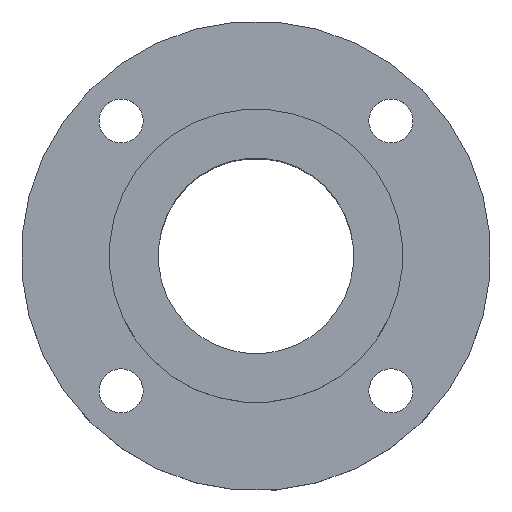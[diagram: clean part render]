
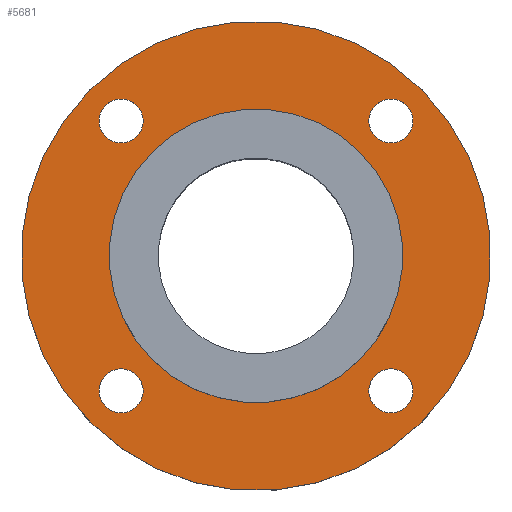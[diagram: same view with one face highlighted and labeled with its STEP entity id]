
A CAD part, top view. The second image highlights one B-rep face of the part: STEP entity #5681.
In plain terms, the highlighted planar face has unit normal (0, 0, 1).
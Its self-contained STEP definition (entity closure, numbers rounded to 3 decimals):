
#110=CIRCLE('',#6041,30.);
#114=CIRCLE('',#6049,48.);
#115=CIRCLE('',#6051,4.5);
#116=CIRCLE('',#6052,4.5);
#117=CIRCLE('',#6053,4.5);
#118=CIRCLE('',#6054,4.5);
#509=ORIENTED_EDGE('',*,*,#2135,.F.);
#510=ORIENTED_EDGE('',*,*,#2136,.F.);
#511=ORIENTED_EDGE('',*,*,#2137,.F.);
#512=ORIENTED_EDGE('',*,*,#2138,.F.);
#513=ORIENTED_EDGE('',*,*,#2130,.T.);
#514=ORIENTED_EDGE('',*,*,#2134,.T.);
#2130=EDGE_CURVE('',#2946,#2946,#110,.F.);
#2134=EDGE_CURVE('',#2950,#2950,#114,.T.);
#2135=EDGE_CURVE('',#2951,#2951,#115,.T.);
#2136=EDGE_CURVE('',#2952,#2952,#116,.T.);
#2137=EDGE_CURVE('',#2953,#2953,#117,.T.);
#2138=EDGE_CURVE('',#2954,#2954,#118,.T.);
#2946=VERTEX_POINT('',#8962);
#2950=VERTEX_POINT('',#8974);
#2951=VERTEX_POINT('',#8977);
#2952=VERTEX_POINT('',#8979);
#2953=VERTEX_POINT('',#8981);
#2954=VERTEX_POINT('',#8983);
#4645=EDGE_LOOP('',(#509));
#4646=EDGE_LOOP('',(#510));
#4647=EDGE_LOOP('',(#511));
#4648=EDGE_LOOP('',(#512));
#4649=EDGE_LOOP('',(#513));
#4650=EDGE_LOOP('',(#514));
#5059=FACE_BOUND('',#4645,.T.);
#5060=FACE_BOUND('',#4646,.T.);
#5061=FACE_BOUND('',#4647,.T.);
#5062=FACE_BOUND('',#4648,.T.);
#5063=FACE_BOUND('',#4649,.T.);
#5064=FACE_BOUND('',#4650,.T.);
#5416=PLANE('',#6050);
#5681=ADVANCED_FACE('',(#5059,#5060,#5061,#5062,#5063,#5064),#5416,.T.);
#6041=AXIS2_PLACEMENT_3D('',#8961,#6565,#6566);
#6049=AXIS2_PLACEMENT_3D('',#8973,#6581,#6582);
#6050=AXIS2_PLACEMENT_3D('',#8975,#6583,#6584);
#6051=AXIS2_PLACEMENT_3D('',#8976,#6585,#6586);
#6052=AXIS2_PLACEMENT_3D('',#8978,#6587,#6588);
#6053=AXIS2_PLACEMENT_3D('',#8980,#6589,#6590);
#6054=AXIS2_PLACEMENT_3D('',#8982,#6591,#6592);
#6565=DIRECTION('',(0.,0.,1.));
#6566=DIRECTION('',(0.707,-0.707,0.));
#6581=DIRECTION('',(0.,0.,1.));
#6582=DIRECTION('',(0.707,-0.707,0.));
#6583=DIRECTION('',(0.,0.,1.));
#6584=DIRECTION('',(0.707,-0.707,0.));
#6585=DIRECTION('',(0.,0.,1.));
#6586=DIRECTION('',(0.707,-0.707,0.));
#6587=DIRECTION('',(0.,0.,1.));
#6588=DIRECTION('',(0.707,-0.707,0.));
#6589=DIRECTION('',(0.,0.,1.));
#6590=DIRECTION('',(0.707,-0.707,0.));
#6591=DIRECTION('',(0.,0.,1.));
#6592=DIRECTION('',(0.707,-0.707,0.));
#8961=CARTESIAN_POINT('',(0.,0.,0.));
#8962=CARTESIAN_POINT('',(21.213,-21.213,0.));
#8973=CARTESIAN_POINT('',(0.,0.,0.));
#8974=CARTESIAN_POINT('',(33.941,-33.941,0.));
#8975=CARTESIAN_POINT('',(0.,0.,0.));
#8976=CARTESIAN_POINT('',(27.577,27.577,0.));
#8977=CARTESIAN_POINT('',(30.759,24.395,0.));
#8978=CARTESIAN_POINT('',(-27.577,27.577,0.));
#8979=CARTESIAN_POINT('',(-24.395,24.395,0.));
#8980=CARTESIAN_POINT('',(-27.577,-27.577,0.));
#8981=CARTESIAN_POINT('',(-24.395,-30.759,0.));
#8982=CARTESIAN_POINT('',(27.577,-27.577,0.));
#8983=CARTESIAN_POINT('',(30.759,-30.759,0.));
